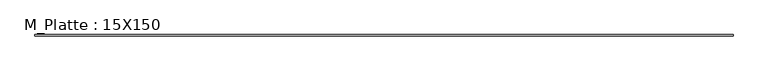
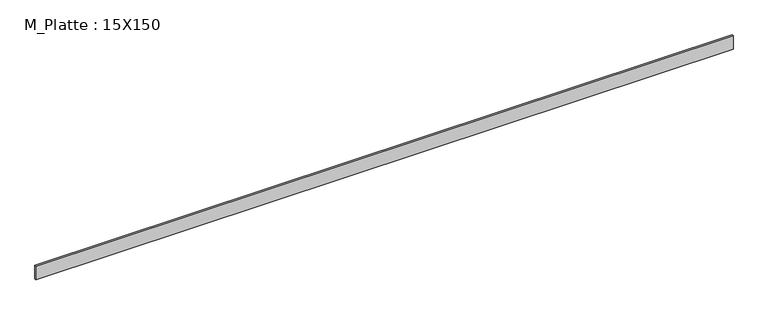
"""IFC4 building model written with IfcOpenShell, lengths in millimetres: beam geometry, M_Platte : 15X150."""

from ifc_helpers import new_model, si_unit, frame, origin, place, context, project, spatial, polyline, outline, extrude, source, transform, mapped, element, save


def m_platte_15x150_519b5cee(model_context):
    return source(origin(), model_context, "Body", "SweptSolid", [
        extrude(outline(polyline([(3636.8747012, 7.5), (3636.8747012, -7.5), (-3636.8747012, -7.5), (-3636.8747012, 7.5), (3636.8747012, 7.5)])), frame((0.0, 0.0, -75.0), z_axis=(0.0, 0.0, 1.0), x_axis=(1.0, 0.0, 0.0)), (0.0, 0.0, 1.0), 150.0),
    ])


if __name__ == "__main__":
    model = new_model("IFC4")
    model_context = context("Model", 3, world=origin())
    ifc_project = project(units=[si_unit("LENGTHUNIT", "METRE", prefix="MILLI")], contexts=[model_context])
    site = spatial("IfcSite", under=ifc_project)
    building = spatial("IfcBuilding", under=site)
    placement = place(None, origin())
    m_platte_15x150_shape = m_platte_15x150_519b5cee(model_context)
    element("IfcBeam", 1, ObjectType="M_Platte : 15X150", at=placement, inside=building, context=model_context, shape_type="MappedRepresentation", body=[
        mapped(m_platte_15x150_shape, transform((0.0, 0.0, 0.0), x_axis=(1.0, 0.0, 0.0), y_axis=(0.0, 1.0, 0.0), z_axis=(0.0, 0.0, 1.0))),
    ])
    save(model, "model.ifc")
